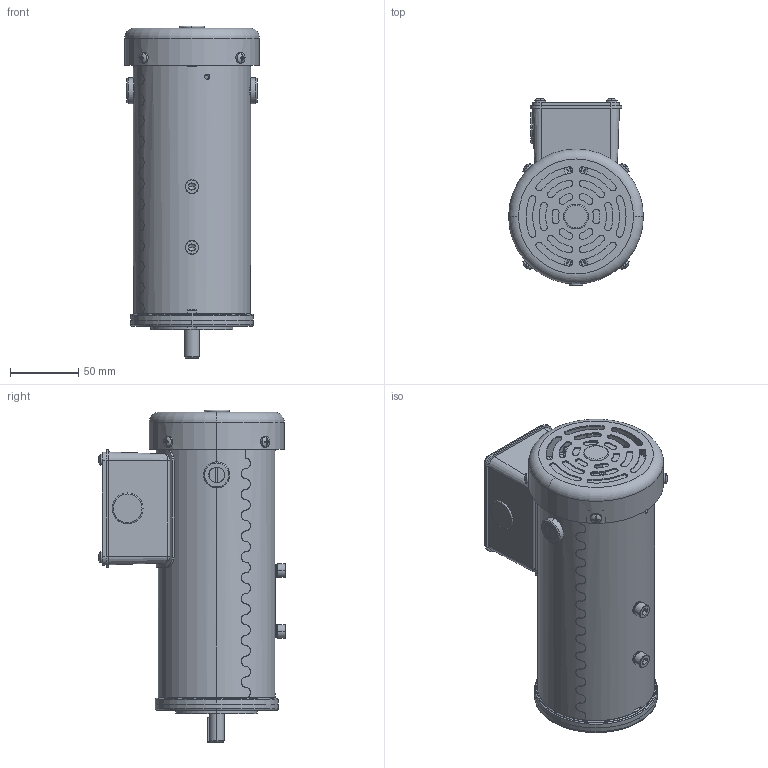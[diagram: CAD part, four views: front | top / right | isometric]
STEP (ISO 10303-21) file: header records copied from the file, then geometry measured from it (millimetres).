
FILE_DESCRIPTION (( 'STEP AP203' ), '1' );
FILE_NAME ('M1030282-G63_Rev04.STEP', '2017-09-05T11:27:09', ( 'admin' ), ( '' ), 'SwSTEP 2.0', 'SolidWorks 2015', '' );
FILE_SCHEMA (( 'CONFIG_CONTROL_DESIGN' ));
Length unit declared in the file: inch
Products named in the file (1): M1030282-G63_Rev04
Bounding box: 98.6 x 136.88 x 242.73 mm (x, y, z)
Volume: 424888.7 mm3; surface area: 258621.6 mm2
Topology: 40 solids, 40 shells, 2040 faces, 5041 edges, 3111 vertices
Faces by surface type: plane 714, cylinder 549, bspline 257, torus 228, cone 222, sphere 70
Entity records: 78164 total; most frequent: CARTESIAN_POINT 30966, ORIENTED_EDGE 9982, DIRECTION 9671, EDGE_CURVE 4991, AXIS2_PLACEMENT_3D 3791, VERTEX_POINT 3107, EDGE_LOOP 2246, VECTOR 2089
